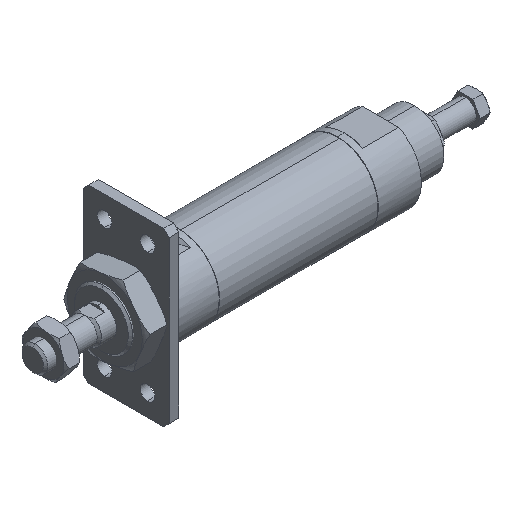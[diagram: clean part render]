
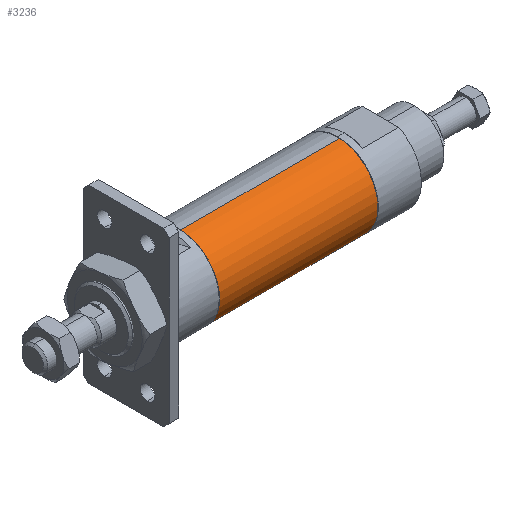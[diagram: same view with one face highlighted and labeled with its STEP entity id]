
A CAD part, isometric view. The second image highlights one B-rep face of the part: STEP entity #3236.
In plain terms, the highlighted cylindrical face has radius 18.8 mm (diameter 37.6 mm), a partial arc.
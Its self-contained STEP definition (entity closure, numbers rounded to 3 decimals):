
#126 = DIRECTION ( 'NONE',  ( 1., 0., 0. ) ) ;
#326 = CARTESIAN_POINT ( 'NONE',  ( 37., 0., 0. ) ) ;
#535 = VERTEX_POINT ( 'NONE', #2262 ) ;
#625 = EDGE_CURVE ( 'NONE', #3723, #4693, #3036, .T. ) ;
#1027 = DIRECTION ( 'NONE',  ( -1., 0., 0. ) ) ;
#1509 = EDGE_CURVE ( 'NONE', #4886, #535, #1737, .T. ) ;
#1737 = CIRCLE ( 'NONE', #3818, 18.8 ) ;
#1743 = CARTESIAN_POINT ( 'NONE',  ( 37., 0., -18.8 ) ) ;
#2062 = AXIS2_PLACEMENT_3D ( 'NONE', #2102, #126, #4706 ) ;
#2102 = CARTESIAN_POINT ( 'NONE',  ( -37., 0., 0. ) ) ;
#2200 = DIRECTION ( 'NONE',  ( -1., 0., 0. ) ) ;
#2262 = CARTESIAN_POINT ( 'NONE',  ( 37., 0., -18.8 ) ) ;
#2630 = ORIENTED_EDGE ( 'NONE', *, *, #625, .T. ) ;
#2645 = FACE_OUTER_BOUND ( 'NONE', #4311, .T. ) ;
#2744 = DIRECTION ( 'NONE',  ( 0., 0., 1. ) ) ;
#3036 = CIRCLE ( 'NONE', #2062, 18.8 ) ;
#3236 = ADVANCED_FACE ( 'NONE', ( #2645 ), #4835, .T. ) ;
#3566 = ORIENTED_EDGE ( 'NONE', *, *, #5150, .T. ) ;
#3659 = CARTESIAN_POINT ( 'NONE',  ( 37., 0., 18.8 ) ) ;
#3673 = DIRECTION ( 'NONE',  ( 0., 0., -1. ) ) ;
#3723 = VERTEX_POINT ( 'NONE', #4343 ) ;
#3818 = AXIS2_PLACEMENT_3D ( 'NONE', #326, #3947, #3673 ) ;
#3885 = AXIS2_PLACEMENT_3D ( 'NONE', #5103, #1027, #2744 ) ;
#3947 = DIRECTION ( 'NONE',  ( 1., 0., 0. ) ) ;
#3980 = ORIENTED_EDGE ( 'NONE', *, *, #5228, .F. ) ;
#4120 = VECTOR ( 'NONE', #2200, 1000. ) ;
#4123 = LINE ( 'NONE', #1743, #5332 ) ;
#4311 = EDGE_LOOP ( 'NONE', ( #3980, #4518, #3566, #2630 ) ) ;
#4343 = CARTESIAN_POINT ( 'NONE',  ( -37., 0., 18.8 ) ) ;
#4379 = LINE ( 'NONE', #3659, #4120 ) ;
#4518 = ORIENTED_EDGE ( 'NONE', *, *, #1509, .F. ) ;
#4693 = VERTEX_POINT ( 'NONE', #4726 ) ;
#4706 = DIRECTION ( 'NONE',  ( 0., 0., -1. ) ) ;
#4726 = CARTESIAN_POINT ( 'NONE',  ( -37., 0., -18.8 ) ) ;
#4750 = CARTESIAN_POINT ( 'NONE',  ( 37., 0., 18.8 ) ) ;
#4825 = DIRECTION ( 'NONE',  ( -1., 0., 0. ) ) ;
#4835 = CYLINDRICAL_SURFACE ( 'NONE', #3885, 18.8 ) ;
#4886 = VERTEX_POINT ( 'NONE', #4750 ) ;
#5103 = CARTESIAN_POINT ( 'NONE',  ( 37., 0., 0. ) ) ;
#5150 = EDGE_CURVE ( 'NONE', #4886, #3723, #4379, .T. ) ;
#5228 = EDGE_CURVE ( 'NONE', #535, #4693, #4123, .T. ) ;
#5332 = VECTOR ( 'NONE', #4825, 1000. ) ;
